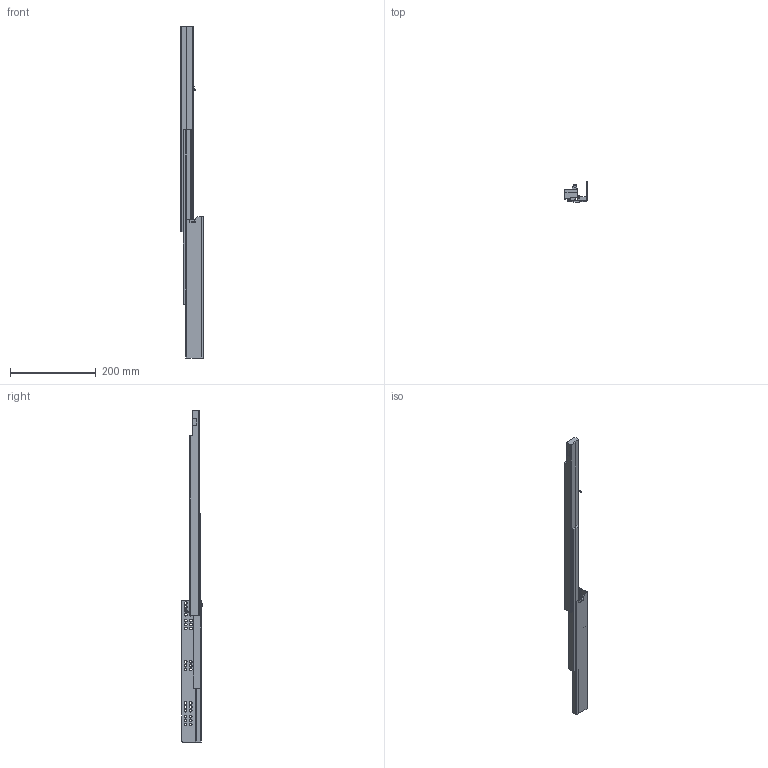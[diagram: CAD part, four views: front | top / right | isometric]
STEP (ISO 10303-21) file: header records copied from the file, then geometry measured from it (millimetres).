
FILE_DESCRIPTION (( 'STEP AP203' ), '1' );
FILE_NAME ('TS10500H-R-DTC3D-open.STEP', '2021-07-09T05:27:43', ( 'df' ), ( 'Microsoft' ), 'SwSTEP 2.0', 'SolidWorks 2018', '' );
FILE_SCHEMA (( 'CONFIG_CONTROL_DESIGN' ));
Length unit declared in the file: millimetre
Products named in the file (1): TS10500H-R-DTC3D-open
Bounding box: 51.73 x 48 x 774.3 mm (x, y, z)
Volume: 443248.6 mm3; surface area: 121665.8 mm2
Topology: 1 solids, 1 shells, 288 faces, 806 edges, 529 vertices
Faces by surface type: plane 113, cylinder 112, bspline 49, torus 14
Entity records: 11161 total; most frequent: CARTESIAN_POINT 3710, ORIENTED_EDGE 1608, DIRECTION 1410, EDGE_CURVE 804, VERTEX_POINT 529, AXIS2_PLACEMENT_3D 485, VECTOR 440, LINE 440
